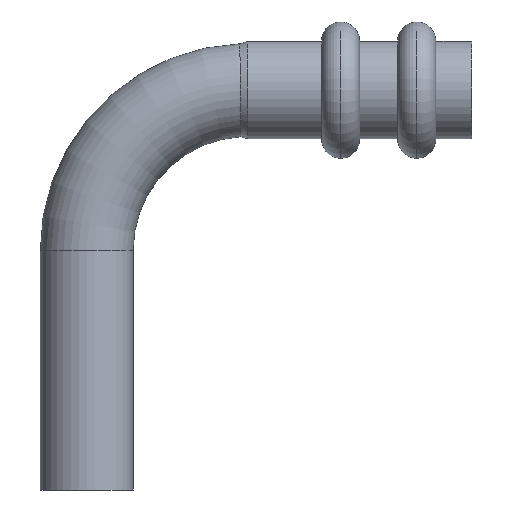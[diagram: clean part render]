
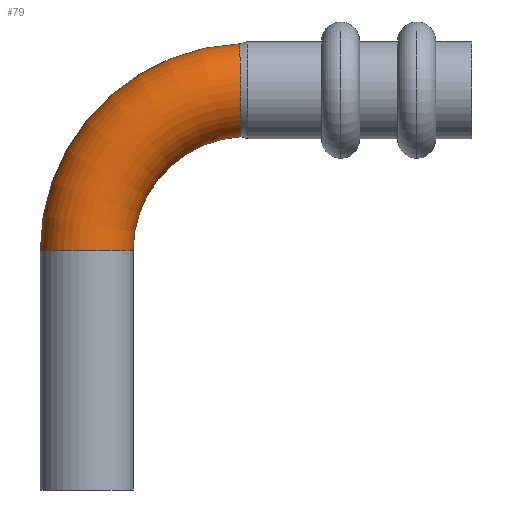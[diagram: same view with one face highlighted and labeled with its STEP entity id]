
A CAD part, front view. The second image highlights one B-rep face of the part: STEP entity #79.
In plain terms, the highlighted toroidal (fillet/blend) face has major radius 19 mm and minor radius 5.484 mm.
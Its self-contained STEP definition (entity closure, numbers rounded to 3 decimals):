
#79=ADVANCED_FACE('',(#202),#203,.T.);
#202=FACE_OUTER_BOUND('',#377,.T.);
#203=TOROIDAL_SURFACE('',#378,19.,5.484);
#377=EDGE_LOOP('',(#553,#554,#555,#556,#557));
#378=AXIS2_PLACEMENT_3D('',#558,#559,#560);
#553=ORIENTED_EDGE('',*,*,#977,.F.);
#554=ORIENTED_EDGE('',*,*,#978,.T.);
#555=ORIENTED_EDGE('',*,*,#979,.T.);
#556=ORIENTED_EDGE('',*,*,#980,.F.);
#557=ORIENTED_EDGE('',*,*,#981,.T.);
#558=CARTESIAN_POINT('',(19.,0.,28.5));
#559=DIRECTION('',(0.,1.0,0.));
#560=DIRECTION('',(1.0,0.,0.0));
#977=EDGE_CURVE('',#1145,#1146,#1147,.T.);
#978=EDGE_CURVE('',#1145,#1148,#1149,.T.);
#979=EDGE_CURVE('',#1148,#1150,#1151,.T.);
#980=EDGE_CURVE('',#1152,#1150,#1153,.T.);
#981=EDGE_CURVE('',#1152,#1146,#1154,.T.);
#1145=VERTEX_POINT('',#1482);
#1146=VERTEX_POINT('',#1483);
#1147=CIRCLE('',#1484,24.484);
#1148=VERTEX_POINT('',#1485);
#1149=CIRCLE('',#1486,5.484);
#1150=VERTEX_POINT('',#1487);
#1151=CIRCLE('',#1488,5.484);
#1152=VERTEX_POINT('',#1489);
#1153=CIRCLE('',#1490,13.516);
#1154=B_SPLINE_CURVE_WITH_KNOTS('',3,(#1491,#1492,#1493,#1494,#1495,#1496,#1497,#1498,#1499,#1500,#1501,#1502,#1503,#1504,#1505,#1506,#1507,#1508,#1509,#1510),.UNSPECIFIED.,.F.,.F.,(4,2,2,2,2,2,2,2,2,4),(-0.681,-0.675,-0.588,-0.502,-0.418,-0.334,-0.251,-0.168,-0.084,-0.0),.UNSPECIFIED.);
#1482=CARTESIAN_POINT('',(-5.484,0.,28.5));
#1483=CARTESIAN_POINT('',(18.104,0.,52.968));
#1484=AXIS2_PLACEMENT_3D('',#1872,#1873,#1874);
#1485=CARTESIAN_POINT('',(0.,-5.484,28.5));
#1486=AXIS2_PLACEMENT_3D('',#1875,#1876,#1877);
#1487=CARTESIAN_POINT('',(5.484,0.,28.5));
#1488=AXIS2_PLACEMENT_3D('',#1878,#1879,#1880);
#1489=CARTESIAN_POINT('',(18.226,0.,41.994));
#1490=AXIS2_PLACEMENT_3D('',#1881,#1882,#1883);
#1491=CARTESIAN_POINT('',(18.226,0.,41.994));
#1492=CARTESIAN_POINT('',(18.226,-0.048,41.994));
#1493=CARTESIAN_POINT('',(18.226,-0.095,41.994));
#1494=CARTESIAN_POINT('',(18.226,-0.875,42.015));
#1495=CARTESIAN_POINT('',(18.224,-1.596,42.18));
#1496=CARTESIAN_POINT('',(18.215,-2.929,42.785));
#1497=CARTESIAN_POINT('',(18.208,-3.528,43.217));
#1498=CARTESIAN_POINT('',(18.194,-4.511,44.279));
#1499=CARTESIAN_POINT('',(18.186,-4.889,44.895));
#1500=CARTESIAN_POINT('',(18.17,-5.385,46.227));
#1501=CARTESIAN_POINT('',(18.162,-5.502,46.93));
#1502=CARTESIAN_POINT('',(18.147,-5.462,48.338));
#1503=CARTESIAN_POINT('',(18.14,-5.308,49.031));
#1504=CARTESIAN_POINT('',(18.127,-4.745,50.322));
#1505=CARTESIAN_POINT('',(18.122,-4.341,50.908));
#1506=CARTESIAN_POINT('',(18.113,-3.331,51.897));
#1507=CARTESIAN_POINT('',(18.11,-2.734,52.29));
#1508=CARTESIAN_POINT('',(18.105,-1.419,52.829));
#1509=CARTESIAN_POINT('',(18.104,-0.713,52.968));
#1510=CARTESIAN_POINT('',(18.104,0.,52.968));
#1872=CARTESIAN_POINT('',(19.,0.,28.5));
#1873=DIRECTION('',(0.,1.0,0.));
#1874=DIRECTION('',(0.0,0.,1.0));
#1875=CARTESIAN_POINT('',(0.0,0.,28.5));
#1876=DIRECTION('',(0.,0.,1.0));
#1877=DIRECTION('',(-1.0,0.,0.));
#1878=CARTESIAN_POINT('',(0.0,0.,28.5));
#1879=DIRECTION('',(0.,0.,1.0));
#1880=DIRECTION('',(-1.0,0.,0.));
#1881=CARTESIAN_POINT('',(19.,0.,28.5));
#1882=DIRECTION('',(0.,-1.0,0.));
#1883=DIRECTION('',(0.0,0.,1.0));
